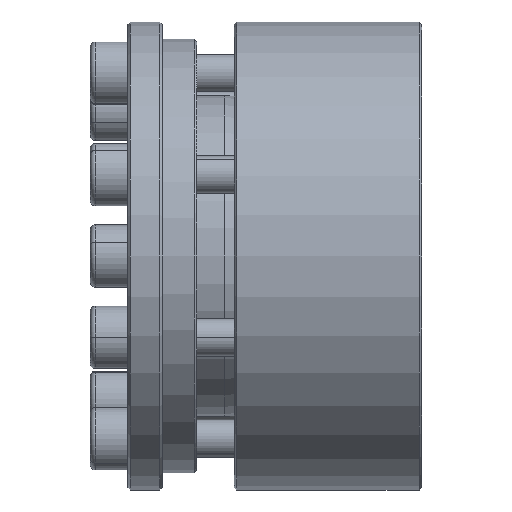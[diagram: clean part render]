
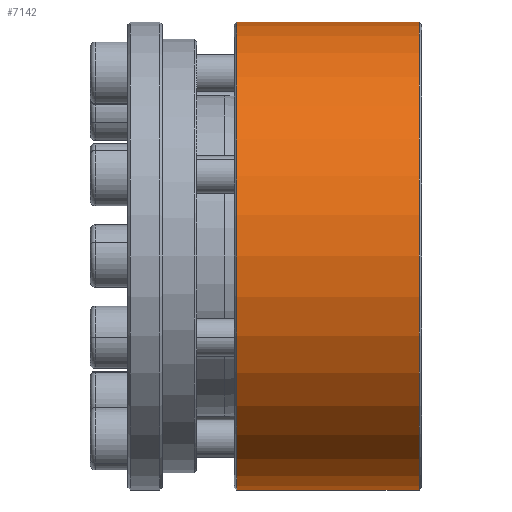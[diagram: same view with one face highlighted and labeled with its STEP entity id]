
A CAD part, front view. The second image highlights one B-rep face of the part: STEP entity #7142.
In plain terms, the highlighted cylindrical face has radius 37.45 mm (diameter 74.9 mm), a partial arc.
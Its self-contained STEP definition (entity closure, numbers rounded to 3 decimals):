
#170 = EDGE_LOOP ( 'NONE', ( #199, #2343, #7049, #4097 ) ) ;
#189 = DIRECTION ( 'NONE',  ( 0., 0., 1. ) ) ;
#199 = ORIENTED_EDGE ( 'NONE', *, *, #3027, .F. ) ;
#343 = CARTESIAN_POINT ( 'NONE',  ( -59.166, 26.04, 0. ) ) ;
#440 = CARTESIAN_POINT ( 'NONE',  ( -88.766, 26.04, -37.45 ) ) ;
#737 = DIRECTION ( 'NONE',  ( -1., 0., 0. ) ) ;
#1167 = DIRECTION ( 'NONE',  ( 1., 0., 0. ) ) ;
#1776 = CARTESIAN_POINT ( 'NONE',  ( -59.166, 26.04, -37.45 ) ) ;
#2343 = ORIENTED_EDGE ( 'NONE', *, *, #7737, .T. ) ;
#2487 = CARTESIAN_POINT ( 'NONE',  ( -88.366, 26.04, 0. ) ) ;
#2525 = VERTEX_POINT ( 'NONE', #3943 ) ;
#2661 = FACE_OUTER_BOUND ( 'NONE', #170, .T. ) ;
#2712 = VERTEX_POINT ( 'NONE', #7777 ) ;
#2980 = DIRECTION ( 'NONE',  ( 0., 0., -1. ) ) ;
#3027 = EDGE_CURVE ( 'NONE', #5507, #2712, #4710, .T. ) ;
#3041 = VECTOR ( 'NONE', #7795, 1000. ) ;
#3589 = AXIS2_PLACEMENT_3D ( 'NONE', #343, #4079, #7165 ) ;
#3927 = VECTOR ( 'NONE', #5953, 1000. ) ;
#3943 = CARTESIAN_POINT ( 'NONE',  ( -59.166, 26.04, 37.45 ) ) ;
#4070 = CIRCLE ( 'NONE', #5868, 37.45 ) ;
#4079 = DIRECTION ( 'NONE',  ( -1., 0., 0. ) ) ;
#4097 = ORIENTED_EDGE ( 'NONE', *, *, #7094, .T. ) ;
#4105 = CARTESIAN_POINT ( 'NONE',  ( -88.366, 26.04, 37.45 ) ) ;
#4582 = AXIS2_PLACEMENT_3D ( 'NONE', #6298, #737, #189 ) ;
#4710 = LINE ( 'NONE', #440, #3041 ) ;
#5252 = CIRCLE ( 'NONE', #3589, 37.45 ) ;
#5349 = LINE ( 'NONE', #6647, #3927 ) ;
#5507 = VERTEX_POINT ( 'NONE', #1776 ) ;
#5868 = AXIS2_PLACEMENT_3D ( 'NONE', #2487, #1167, #2980 ) ;
#5953 = DIRECTION ( 'NONE',  ( -1., 0., 0. ) ) ;
#6099 = EDGE_CURVE ( 'NONE', #2525, #6184, #5349, .T. ) ;
#6184 = VERTEX_POINT ( 'NONE', #4105 ) ;
#6265 = CYLINDRICAL_SURFACE ( 'NONE', #4582, 37.45 ) ;
#6298 = CARTESIAN_POINT ( 'NONE',  ( -88.766, 26.04, 0. ) ) ;
#6647 = CARTESIAN_POINT ( 'NONE',  ( -88.766, 26.04, 37.45 ) ) ;
#7049 = ORIENTED_EDGE ( 'NONE', *, *, #6099, .T. ) ;
#7094 = EDGE_CURVE ( 'NONE', #6184, #2712, #4070, .T. ) ;
#7142 = ADVANCED_FACE ( 'NONE', ( #2661 ), #6265, .T. ) ;
#7165 = DIRECTION ( 'NONE',  ( 0., 0., 1. ) ) ;
#7737 = EDGE_CURVE ( 'NONE', #5507, #2525, #5252, .T. ) ;
#7777 = CARTESIAN_POINT ( 'NONE',  ( -88.366, 26.04, -37.45 ) ) ;
#7795 = DIRECTION ( 'NONE',  ( -1., 0., 0. ) ) ;
